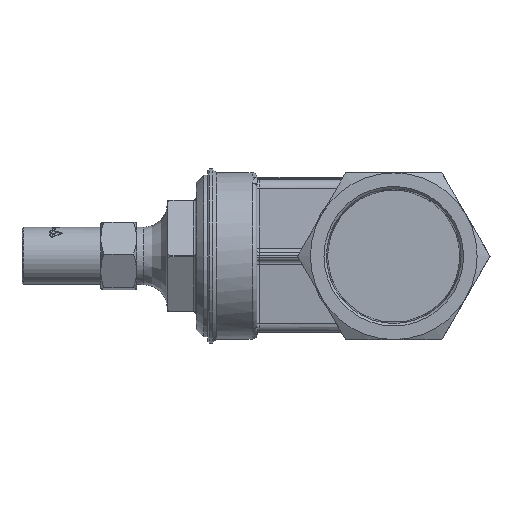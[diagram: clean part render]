
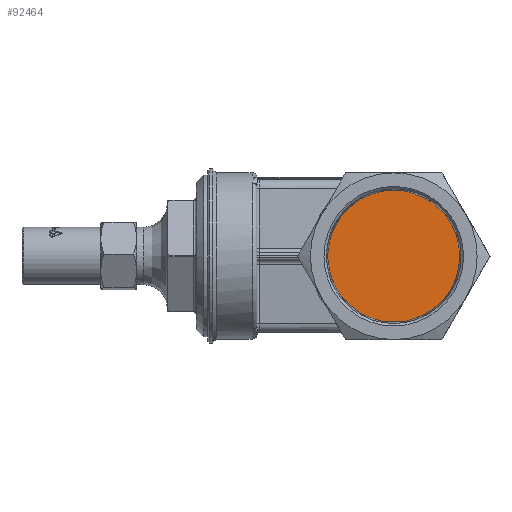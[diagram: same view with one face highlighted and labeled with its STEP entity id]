
A CAD part, left-side view. The second image highlights one B-rep face of the part: STEP entity #92464.
In plain terms, the highlighted planar face has unit normal (-1, 0, 0).
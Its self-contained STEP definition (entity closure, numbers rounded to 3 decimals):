
#92441=CARTESIAN_POINT('',(15.9,-27.745,0.0));
#92442=VERTEX_POINT('',#92441);
#92443=CARTESIAN_POINT('',(15.9,0.,0.0));
#92444=DIRECTION('',(-1.0,0.0,0.0));
#92445=DIRECTION('',(0.0,-1.0,0.0));
#92446=AXIS2_PLACEMENT_3D('',#92443,#92444,#92445);
#92447=CIRCLE('',#92446,27.745);
#92448=EDGE_CURVE('',#92442,#92442,#92447,.T.);
#92456=CARTESIAN_POINT('',(15.9,-13.872,0.0));
#92457=DIRECTION('',(-1.0,0.0,0.0));
#92458=DIRECTION('',(0.0,0.0,1.0));
#92459=AXIS2_PLACEMENT_3D('',#92456,#92457,#92458);
#92460=PLANE('',#92459);
#92461=ORIENTED_EDGE('',*,*,#92448,.T.);
#92462=EDGE_LOOP('',(#92461));
#92463=FACE_OUTER_BOUND('',#92462,.T.);
#92464=ADVANCED_FACE('',(#92463),#92460,.T.);
